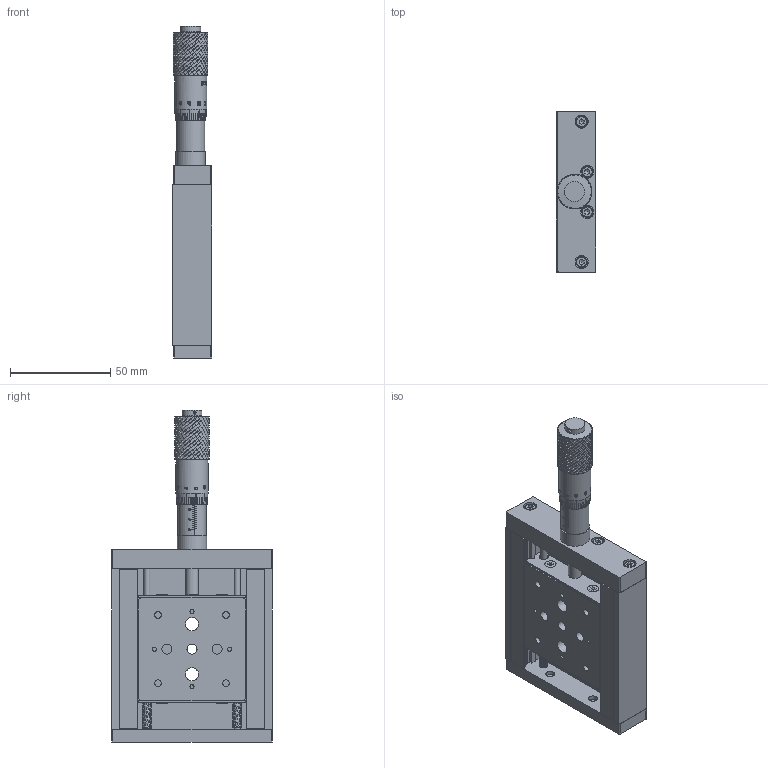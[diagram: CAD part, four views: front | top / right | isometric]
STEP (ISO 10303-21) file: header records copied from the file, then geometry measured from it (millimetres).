
FILE_DESCRIPTION (( 'STEP AP203' ), '1' );
FILE_NAME ('TCM53X-1.step', '2017-01-10T09:14:04', ( '¦K¬P' ), ( '' ), 'SwSTEP 2.0', 'SolidWorks 2012', '' );
FILE_SCHEMA (( 'CONFIG_CONTROL_DESIGN' ));
Products named in the file (1): TCM53X-1
Bounding box: 19.6 x 80 x 165.5 mm (x, y, z)
Surface area: 56284.4 mm2 (no closed solid volume)
Topology: 0 solids, 70 shells, 1888 faces, 7036 edges, 5061 vertices
Faces by surface type: bspline 1028, cylinder 638, plane 194, cone 27, sphere 1
Full cylindrical faces by diameter (mm): 1.4 x1, 2 x6, 2.5 x1, 3 x2, 3.3 x11, 4.5 x6, 4.6 x4, 5 x4, 5.2 x2, 5.5 x4, 6 x4, 6.5 x11, 8 x4, 9.5 x1, 10 x1, 11 x4, 14.6 x1, 14.8 x1, 16 x1
Entity records: 192576 total; most frequent: CARTESIAN_POINT 150126, ORIENTED_EDGE 11886, EDGE_CURVE 6928, VERTEX_POINT 5041, DIRECTION 4196, B_SPLINE_CURVE_WITH_KNOTS 2656, EDGE_LOOP 2194, FACE_OUTER_BOUND 1959
